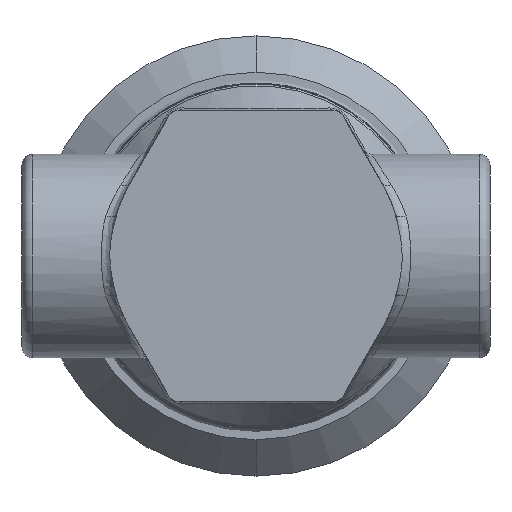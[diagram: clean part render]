
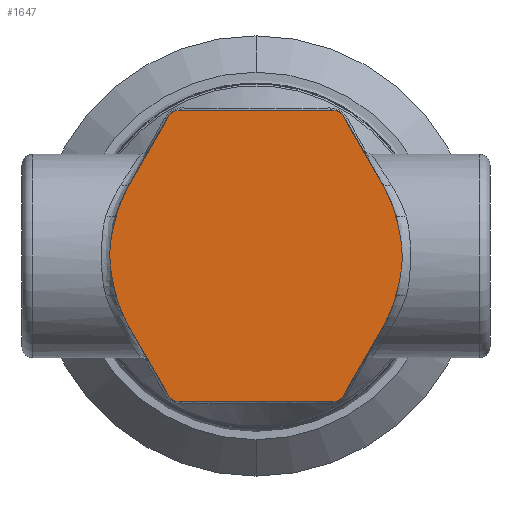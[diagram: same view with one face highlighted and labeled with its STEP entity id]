
A CAD part, front view. The second image highlights one B-rep face of the part: STEP entity #1647.
In plain terms, the highlighted planar face has unit normal (0, -1, 0).
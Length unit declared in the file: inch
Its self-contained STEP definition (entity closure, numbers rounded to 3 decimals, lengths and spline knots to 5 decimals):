
#1=DIRECTION('',(-1.,0.,0.));
#2=VECTOR('',#1,0.84124);
#3=CARTESIAN_POINT('',(0.42062,-1.9685,0.78658));
#4=LINE('',#3,#2);
#19=CARTESIAN_POINT('',(-0.42062,-1.9685,
0.72835));
#20=DIRECTION('',(0.,1.,0.));
#21=DIRECTION('',(-0.866,0.,0.5));
#22=AXIS2_PLACEMENT_3D('',#19,#20,#21);
#29=DIRECTION('',(-0.5,0.,-0.866));
#30=VECTOR('',#29,0.42062);
#31=CARTESIAN_POINT('',(-0.47105,-1.9685,
0.75745));
#32=LINE('',#31,#30);
#42=CARTESIAN_POINT('',(0.,-1.9685,0.));
#43=DIRECTION('',(0.,1.,0.));
#44=DIRECTION('',(-0.866,0.,-0.5));
#45=AXIS2_PLACEMENT_3D('',#42,#43,#44);
#58=CARTESIAN_POINT('',(0.,-1.9685,0.));
#59=DIRECTION('',(0.,1.,0.));
#60=DIRECTION('',(-0.975,0.,0.222));
#61=AXIS2_PLACEMENT_3D('',#58,#59,#60);
#79=DIRECTION('',(0.5,0.,-0.866));
#80=VECTOR('',#79,0.42062);
#81=CARTESIAN_POINT('',(-0.68128,-1.9685,
-0.39313));
#82=LINE('',#81,#80);
#97=CARTESIAN_POINT('',(-0.42062,-1.9685,
-0.72835));
#98=DIRECTION('',(0.,1.,0.));
#99=DIRECTION('',(0.,0.,-1.));
#100=AXIS2_PLACEMENT_3D('',#97,#98,#99);
#107=DIRECTION('',(1.,0.,0.));
#108=VECTOR('',#107,0.84124);
#109=CARTESIAN_POINT('',(-0.42062,-1.9685,
-0.78658));
#110=LINE('',#109,#108);
#125=CARTESIAN_POINT('',(0.42062,-1.9685,
-0.72835));
#126=DIRECTION('',(0.,1.,0.));
#127=DIRECTION('',(0.866,0.,-0.5));
#128=AXIS2_PLACEMENT_3D('',#125,#126,#127);
#135=DIRECTION('',(0.5,0.,0.866));
#136=VECTOR('',#135,0.42062);
#137=CARTESIAN_POINT('',(0.47105,-1.9685,
-0.75745));
#138=LINE('',#137,#136);
#148=CARTESIAN_POINT('',(0.,-1.9685,0.));
#149=DIRECTION('',(0.,1.,0.));
#150=DIRECTION('',(0.866,0.,0.5));
#151=AXIS2_PLACEMENT_3D('',#148,#149,#150);
#164=CARTESIAN_POINT('',(0.,-1.9685,0.));
#165=DIRECTION('',(0.,1.,0.));
#166=DIRECTION('',(0.975,0.,-0.222));
#167=AXIS2_PLACEMENT_3D('',#164,#165,#166);
#185=DIRECTION('',(-0.5,0.,0.866));
#186=VECTOR('',#185,0.42062);
#187=CARTESIAN_POINT('',(0.68128,-1.9685,
0.39313));
#188=LINE('',#187,#186);
#203=CARTESIAN_POINT('',(0.42062,-1.9685,
0.72835));
#204=DIRECTION('',(0.,1.,0.));
#205=DIRECTION('',(0.,0.,1.));
#206=AXIS2_PLACEMENT_3D('',#203,#204,#205);
#1251=CARTESIAN_POINT('',(0.76695,-1.9685,
0.1746));
#1252=CARTESIAN_POINT('',(0.76929,-1.9685,
0.16431));
#1253=CARTESIAN_POINT('',(0.77388,-1.9685,
0.14372));
#1254=CARTESIAN_POINT('',(0.78012,-1.9685,
0.11281));
#1255=CARTESIAN_POINT('',(0.78548,-1.9685,
0.08141));
#1256=CARTESIAN_POINT('',(0.78956,-1.9685,
0.0492));
#1257=CARTESIAN_POINT('',(0.7918,-1.9685,
0.01639));
#1258=CARTESIAN_POINT('',(0.79179,-1.9685,
-0.01661));
#1259=CARTESIAN_POINT('',(0.78954,-1.9685,
-0.04939));
#1260=CARTESIAN_POINT('',(0.78546,-1.9685,
-0.08156));
#1261=CARTESIAN_POINT('',(0.7801,-1.9685,
-0.11291));
#1262=CARTESIAN_POINT('',(0.77387,-1.9685,
-0.14377));
#1263=CARTESIAN_POINT('',(0.76929,-1.9685,
-0.16433));
#1264=CARTESIAN_POINT('',(0.76695,-1.9685,
-0.1746));
#1420=CARTESIAN_POINT('',(-0.76695,-1.9685,
-0.1746));
#1421=CARTESIAN_POINT('',(-0.76929,-1.9685,
-0.16431));
#1422=CARTESIAN_POINT('',(-0.77388,-1.9685,
-0.14372));
#1423=CARTESIAN_POINT('',(-0.78012,-1.9685,
-0.11281));
#1424=CARTESIAN_POINT('',(-0.78548,-1.9685,
-0.08141));
#1425=CARTESIAN_POINT('',(-0.78956,-1.9685,
-0.0492));
#1426=CARTESIAN_POINT('',(-0.7918,-1.9685,
-0.01639));
#1427=CARTESIAN_POINT('',(-0.79179,-1.9685,
0.01661));
#1428=CARTESIAN_POINT('',(-0.78954,-1.9685,
0.04939));
#1429=CARTESIAN_POINT('',(-0.78546,-1.9685,
0.08156));
#1430=CARTESIAN_POINT('',(-0.7801,-1.9685,
0.11291));
#1431=CARTESIAN_POINT('',(-0.77387,-1.9685,
0.14377));
#1432=CARTESIAN_POINT('',(-0.76929,-1.9685,
0.16433));
#1433=CARTESIAN_POINT('',(-0.76695,-1.9685,
0.1746));
#1506=CARTESIAN_POINT('',(0.42062,-1.9685,
0.78658));
#1507=CARTESIAN_POINT('',(-0.42062,-1.9685,
0.78658));
#1508=VERTEX_POINT('',#1506);
#1509=VERTEX_POINT('',#1507);
#1510=CARTESIAN_POINT('',(0.68128,-1.9685,
0.39313));
#1511=CARTESIAN_POINT('',(0.47105,-1.9685,
0.75745));
#1512=VERTEX_POINT('',#1510);
#1513=VERTEX_POINT('',#1511);
#1514=CARTESIAN_POINT('',(0.76695,-1.9685,
0.1746));
#1515=VERTEX_POINT('',#1514);
#1516=CARTESIAN_POINT('',(0.76695,-1.9685,
-0.1746));
#1517=CARTESIAN_POINT('',(0.68128,-1.9685,
-0.39313));
#1518=VERTEX_POINT('',#1516);
#1519=VERTEX_POINT('',#1517);
#1520=CARTESIAN_POINT('',(0.47105,-1.9685,
-0.75745));
#1521=VERTEX_POINT('',#1520);
#1522=CARTESIAN_POINT('',(-0.42062,-1.9685,
-0.78658));
#1523=CARTESIAN_POINT('',(0.42062,-1.9685,
-0.78658));
#1524=VERTEX_POINT('',#1522);
#1525=VERTEX_POINT('',#1523);
#1526=CARTESIAN_POINT('',(-0.68128,-1.9685,
-0.39313));
#1527=CARTESIAN_POINT('',(-0.47105,-1.9685,
-0.75745));
#1528=VERTEX_POINT('',#1526);
#1529=VERTEX_POINT('',#1527);
#1530=CARTESIAN_POINT('',(-0.76695,-1.9685,
-0.1746));
#1531=VERTEX_POINT('',#1530);
#1532=CARTESIAN_POINT('',(-0.76695,-1.9685,
0.1746));
#1533=CARTESIAN_POINT('',(-0.68128,-1.9685,
0.39313));
#1534=VERTEX_POINT('',#1532);
#1535=VERTEX_POINT('',#1533);
#1536=CARTESIAN_POINT('',(-0.47105,-1.9685,
0.75745));
#1537=VERTEX_POINT('',#1536);
#1608=CARTESIAN_POINT('',(1.26575,-1.9685,1.25197));
#1609=DIRECTION('',(0.,1.,0.));
#1610=DIRECTION('',(-1.,0.,0.));
#1611=AXIS2_PLACEMENT_3D('',#1608,#1609,#1610);
#1612=PLANE('',#1611);
#1614=ORIENTED_EDGE('',*,*,#1613,.F.);
#1616=ORIENTED_EDGE('',*,*,#1615,.T.);
#1618=ORIENTED_EDGE('',*,*,#1617,.F.);
#1620=ORIENTED_EDGE('',*,*,#1619,.T.);
#1622=ORIENTED_EDGE('',*,*,#1621,.T.);
#1624=ORIENTED_EDGE('',*,*,#1623,.T.);
#1626=ORIENTED_EDGE('',*,*,#1625,.F.);
#1628=ORIENTED_EDGE('',*,*,#1627,.T.);
#1630=ORIENTED_EDGE('',*,*,#1629,.F.);
#1632=ORIENTED_EDGE('',*,*,#1631,.T.);
#1634=ORIENTED_EDGE('',*,*,#1633,.F.);
#1636=ORIENTED_EDGE('',*,*,#1635,.T.);
#1638=ORIENTED_EDGE('',*,*,#1637,.T.);
#1640=ORIENTED_EDGE('',*,*,#1639,.T.);
#1642=ORIENTED_EDGE('',*,*,#1641,.F.);
#1644=ORIENTED_EDGE('',*,*,#1643,.T.);
#1645=EDGE_LOOP('',(#1614,#1616,#1618,#1620,#1622,#1624,#1626,#1628,#1630,#1632,
#1634,#1636,#1638,#1640,#1642,#1644));
#1646=FACE_OUTER_BOUND('',#1645,.F.);
#1647=ADVANCED_FACE('',(#1646),#1612,.F.);
#23=CIRCLE('',#22,0.05823);
#46=CIRCLE('',#45,0.78658);
#62=CIRCLE('',#61,0.78658);
#101=CIRCLE('',#100,0.05823);
#129=CIRCLE('',#128,0.05823);
#152=CIRCLE('',#151,0.78658);
#168=CIRCLE('',#167,0.78658);
#207=CIRCLE('',#206,0.05823);
#1265=B_SPLINE_CURVE_WITH_KNOTS('',3,(#1251,#1252,#1253,#1254,#1255,#1256,#1257,
#1258,#1259,#1260,#1261,#1262,#1263,#1264),.UNSPECIFIED.,.F.,.F.,(4,1,1,1,1,1,1,
1,1,1,1,4),(0.,0.09091,0.18182,0.27273,
0.36364,0.45455,0.54545,0.63636,
0.72727,0.81818,0.90909,1.),.UNSPECIFIED.);
#1434=B_SPLINE_CURVE_WITH_KNOTS('',3,(#1420,#1421,#1422,#1423,#1424,#1425,#1426,
#1427,#1428,#1429,#1430,#1431,#1432,#1433),.UNSPECIFIED.,.F.,.F.,(4,1,1,1,1,1,1,
1,1,1,1,4),(0.,0.09091,0.18182,0.27273,
0.36364,0.45455,0.54545,0.63636,
0.72727,0.81818,0.90909,1.),.UNSPECIFIED.);
#1613=EDGE_CURVE('',#1508,#1509,#4,.T.);
#1615=EDGE_CURVE('',#1508,#1513,#207,.T.);
#1617=EDGE_CURVE('',#1512,#1513,#188,.T.);
#1619=EDGE_CURVE('',#1512,#1515,#152,.T.);
#1621=EDGE_CURVE('',#1515,#1518,#1265,.T.);
#1623=EDGE_CURVE('',#1518,#1519,#168,.T.);
#1625=EDGE_CURVE('',#1521,#1519,#138,.T.);
#1627=EDGE_CURVE('',#1521,#1525,#129,.T.);
#1629=EDGE_CURVE('',#1524,#1525,#110,.T.);
#1631=EDGE_CURVE('',#1524,#1529,#101,.T.);
#1633=EDGE_CURVE('',#1528,#1529,#82,.T.);
#1635=EDGE_CURVE('',#1528,#1531,#46,.T.);
#1637=EDGE_CURVE('',#1531,#1534,#1434,.T.);
#1639=EDGE_CURVE('',#1534,#1535,#62,.T.);
#1641=EDGE_CURVE('',#1537,#1535,#32,.T.);
#1643=EDGE_CURVE('',#1537,#1509,#23,.T.);
